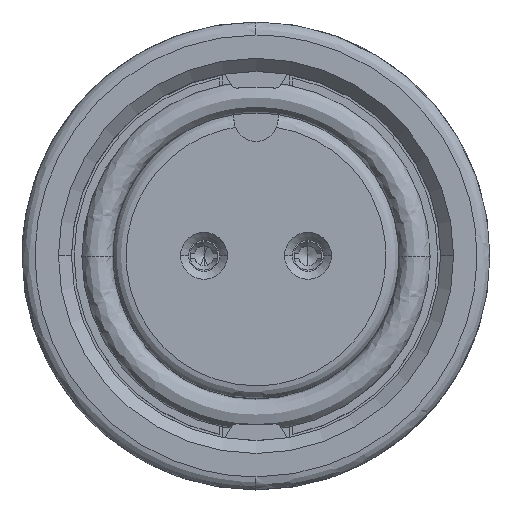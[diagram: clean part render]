
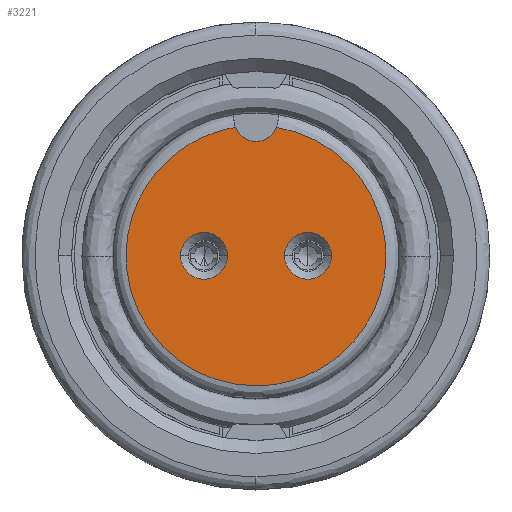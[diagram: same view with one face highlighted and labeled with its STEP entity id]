
A CAD part, top view. The second image highlights one B-rep face of the part: STEP entity #3221.
In plain terms, the highlighted planar face has unit normal (0, 0, 1).
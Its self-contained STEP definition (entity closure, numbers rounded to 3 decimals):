
#91 = CARTESIAN_POINT ( 'NONE',  ( 2.9, 0., 0. ) ) ;
#258 = ORIENTED_EDGE ( 'NONE', *, *, #27107, .F. ) ;
#572 = CARTESIAN_POINT ( 'NONE',  ( 2., 0., 0. ) ) ;
#1725 = CIRCLE ( 'NONE', #24677, 0.9 ) ;
#1808 = FACE_OUTER_BOUND ( 'NONE', #23945, .T. ) ;
#2086 = AXIS2_PLACEMENT_3D ( 'NONE', #23004, #25158, #24881 ) ;
#2253 = CARTESIAN_POINT ( 'NONE',  ( 9.38, 3.562, 0. ) ) ;
#2325 =( BOUNDED_CURVE ( )  B_SPLINE_CURVE ( 3, ( #21972, #2253, #2544, #26727 ),
 .UNSPECIFIED., .F., .F. ) 
 B_SPLINE_CURVE_WITH_KNOTS ( ( 4, 4 ),
 ( 0., 1. ),
 .UNSPECIFIED. ) 
 CURVE ( )  GEOMETRIC_REPRESENTATION_ITEM ( )  RATIONAL_B_SPLINE_CURVE ( ( 1., 0.382, 0.382, 1. ) ) 
 REPRESENTATION_ITEM ( '' )  );
#2544 = CARTESIAN_POINT ( 'NONE',  ( 8.638, -5.106, 0. ) ) ;
#3221 = ADVANCED_FACE ( 'NONE', ( #23687, #3964, #1808 ), #19364, .T. ) ;
#3471 = CIRCLE ( 'NONE', #2086, 0.9 ) ;
#3781 = CARTESIAN_POINT ( 'NONE',  ( 1.1, 0., 0. ) ) ;
#3964 = FACE_BOUND ( 'NONE', #7046, .T. ) ;
#4131 = CARTESIAN_POINT ( 'NONE',  ( -9.194, 3.592, 0. ) ) ;
#4755 = DIRECTION ( 'NONE',  ( 1., 0., 0. ) ) ;
#4971 = DIRECTION ( 'NONE',  ( 1., 0., 0. ) ) ;
#5114 = DIRECTION ( 'NONE',  ( 0., 0., 1. ) ) ;
#5225 = ORIENTED_EDGE ( 'NONE', *, *, #25220, .T. ) ;
#5658 = DIRECTION ( 'NONE',  ( 1., 0., 0. ) ) ;
#5828 = CIRCLE ( 'NONE', #12738, 0.9 ) ;
#5857 = VERTEX_POINT ( 'NONE', #7940 ) ;
#5948 = EDGE_LOOP ( 'NONE', ( #5225, #14396 ) ) ;
#6394 = DIRECTION ( 'NONE',  ( 1., 0., 0. ) ) ;
#7040 = EDGE_CURVE ( 'NONE', #15770, #25912, #3471, .T. ) ;
#7046 = EDGE_LOOP ( 'NONE', ( #15982, #24021 ) ) ;
#7229 = CARTESIAN_POINT ( 'NONE',  ( 2., 0., 0. ) ) ;
#7940 = CARTESIAN_POINT ( 'NONE',  ( -0.79, 4.937, 0. ) ) ;
#8221 = CIRCLE ( 'NONE', #12382, 0.85 ) ;
#8486 = ORIENTED_EDGE ( 'NONE', *, *, #15213, .F. ) ;
#9595 = VERTEX_POINT ( 'NONE', #3781 ) ;
#9708 = CARTESIAN_POINT ( 'NONE',  ( -2., 0., 0. ) ) ;
#10295 = CIRCLE ( 'NONE', #16720, 0.9 ) ;
#11802 = CARTESIAN_POINT ( 'NONE',  ( -0.061, -5., 0. ) ) ;
#12352 = EDGE_CURVE ( 'NONE', #9595, #28441, #1725, .T. ) ;
#12382 = AXIS2_PLACEMENT_3D ( 'NONE', #28148, #14896, #6394 ) ;
#12738 = AXIS2_PLACEMENT_3D ( 'NONE', #7229, #25219, #13869 ) ;
#13596 = CARTESIAN_POINT ( 'NONE',  ( 0.001, -0.031, 0. ) ) ;
#13790 = EDGE_CURVE ( 'NONE', #28441, #9595, #5828, .T. ) ;
#13820 = DIRECTION ( 'NONE',  ( 0., 0., -1. ) ) ;
#13869 = DIRECTION ( 'NONE',  ( 1., 0., 0. ) ) ;
#14160 = AXIS2_PLACEMENT_3D ( 'NONE', #13596, #5114, #4971 ) ;
#14251 = ORIENTED_EDGE ( 'NONE', *, *, #21954, .T. ) ;
#14396 = ORIENTED_EDGE ( 'NONE', *, *, #7040, .T. ) ;
#14896 = DIRECTION ( 'NONE',  ( 0., 0., -1. ) ) ;
#15213 = EDGE_CURVE ( 'NONE', #23258, #26739, #2325, .T. ) ;
#15770 = VERTEX_POINT ( 'NONE', #17149 ) ;
#15982 = ORIENTED_EDGE ( 'NONE', *, *, #12352, .T. ) ;
#16594 = DIRECTION ( 'NONE',  ( 0., 0., -1. ) ) ;
#16720 = AXIS2_PLACEMENT_3D ( 'NONE', #9708, #16594, #5658 ) ;
#17149 = CARTESIAN_POINT ( 'NONE',  ( -1.1, 0., 0. ) ) ;
#19364 = PLANE ( 'NONE',  #14160 ) ;
#19387 = CARTESIAN_POINT ( 'NONE',  ( -8.571, -4.896, 0. ) ) ;
#21954 = EDGE_CURVE ( 'NONE', #23258, #5857, #8221, .T. ) ;
#21972 = CARTESIAN_POINT ( 'NONE',  ( 0.79, 4.937, 0. ) ) ;
#23004 = CARTESIAN_POINT ( 'NONE',  ( -2., 0., 0. ) ) ;
#23258 = VERTEX_POINT ( 'NONE', #26786 ) ;
#23343 =( BOUNDED_CURVE ( )  B_SPLINE_CURVE ( 3, ( #28448, #19387, #4131, #28171 ),
 .UNSPECIFIED., .F., .F. ) 
 B_SPLINE_CURVE_WITH_KNOTS ( ( 4, 4 ),
 ( 0., 1. ),
 .UNSPECIFIED. ) 
 CURVE ( )  GEOMETRIC_REPRESENTATION_ITEM ( )  RATIONAL_B_SPLINE_CURVE ( ( 1., 0.39, 0.39, 1. ) ) 
 REPRESENTATION_ITEM ( '' )  );
#23687 = FACE_BOUND ( 'NONE', #5948, .T. ) ;
#23945 = EDGE_LOOP ( 'NONE', ( #8486, #14251, #258 ) ) ;
#24021 = ORIENTED_EDGE ( 'NONE', *, *, #13790, .T. ) ;
#24677 = AXIS2_PLACEMENT_3D ( 'NONE', #572, #13820, #4755 ) ;
#24881 = DIRECTION ( 'NONE',  ( 1., 0., 0. ) ) ;
#25158 = DIRECTION ( 'NONE',  ( 0., 0., -1. ) ) ;
#25219 = DIRECTION ( 'NONE',  ( 0., 0., -1. ) ) ;
#25220 = EDGE_CURVE ( 'NONE', #25912, #15770, #10295, .T. ) ;
#25912 = VERTEX_POINT ( 'NONE', #28175 ) ;
#26727 = CARTESIAN_POINT ( 'NONE',  ( -0.061, -5., 0. ) ) ;
#26739 = VERTEX_POINT ( 'NONE', #11802 ) ;
#26786 = CARTESIAN_POINT ( 'NONE',  ( 0.79, 4.937, 0. ) ) ;
#27107 = EDGE_CURVE ( 'NONE', #26739, #5857, #23343, .T. ) ;
#28148 = CARTESIAN_POINT ( 'NONE',  ( 0., 5.25, 0. ) ) ;
#28171 = CARTESIAN_POINT ( 'NONE',  ( -0.79, 4.937, 0. ) ) ;
#28175 = CARTESIAN_POINT ( 'NONE',  ( -2.9, 0., 0. ) ) ;
#28441 = VERTEX_POINT ( 'NONE', #91 ) ;
#28448 = CARTESIAN_POINT ( 'NONE',  ( -0.061, -5., 0. ) ) ;
